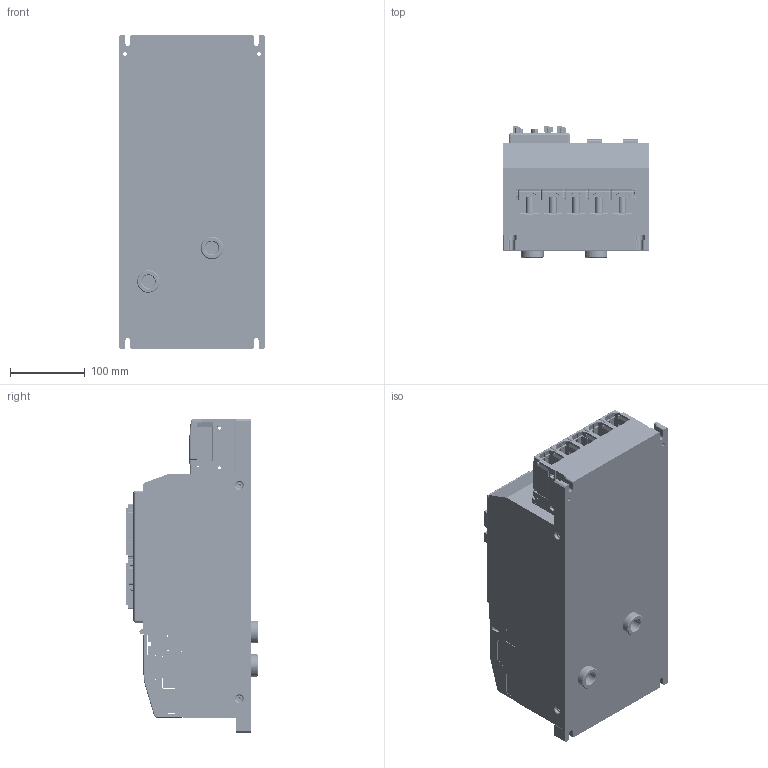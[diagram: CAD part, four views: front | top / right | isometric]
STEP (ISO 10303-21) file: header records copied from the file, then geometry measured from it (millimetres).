
FILE_DESCRIPTION((''),'2;1');
FILE_NAME('61767N-2_SW0001','2019-05-21T',('songbofeng'),(''),'PRO/ENGINEER BY PARAMETRIC TECHNOLOGY CORPORATION, 2010430','PRO/ENGINEER BY PARAMETRIC TECHNOLOGY CORPORATION, 2010430','');
FILE_SCHEMA(('AUTOMOTIVE_DESIGN_CC2 { 1 2 10303 214 -1 1 5 2 }'));
Products named in the file (1): 61767N-2_SW0001
Bounding box: 196 x 176.9 x 420 mm (x, y, z)
Surface area: 1092530.7 mm2 (no closed solid volume)
Topology: 0 solids, 781 shells, 8317 faces, 35132 edges, 26908 vertices
Faces by surface type: plane 4648, cylinder 2396, torus 601, cone 384, bspline 204, sphere 74, extrusion 10
Entity records: 550961 total; most frequent: CARTESIAN_POINT 116220, DIRECTION 55947, ORIENTED_EDGE 51356, PRESENTATION_STYLE_ASSIGNMENT 42092, STYLED_ITEM 35007, CURVE_STYLE 34883, EDGE_CURVE 34883, VERTEX_POINT 26869
